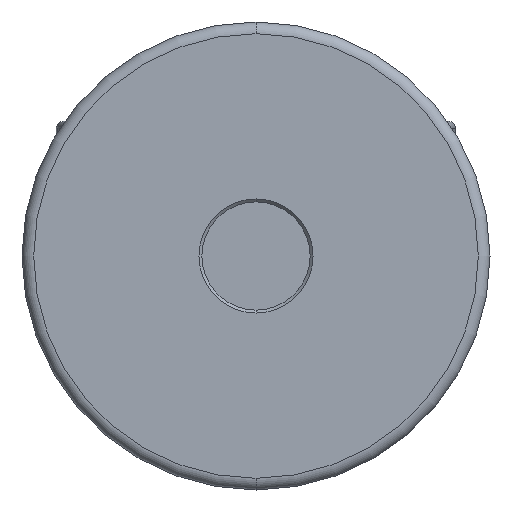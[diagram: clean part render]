
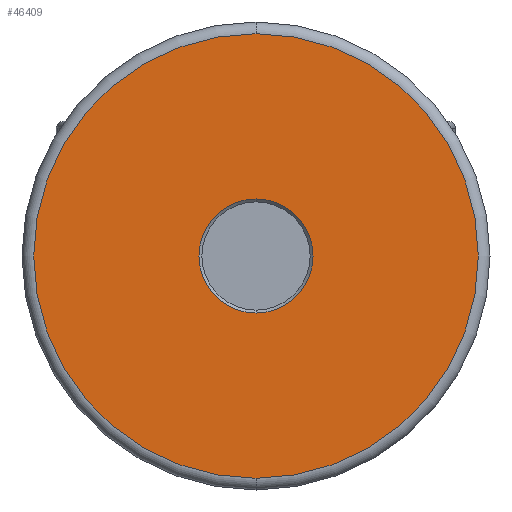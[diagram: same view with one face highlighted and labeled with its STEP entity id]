
A CAD part, front view. The second image highlights one B-rep face of the part: STEP entity #46409.
In plain terms, the highlighted planar face has unit normal (0, -1, 0).
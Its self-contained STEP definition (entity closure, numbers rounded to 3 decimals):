
#853 = VERTEX_POINT ( 'NONE', #43243 ) ;
#1069 = EDGE_CURVE ( 'NONE', #43587, #13728, #59654, .T. ) ;
#1621 = CARTESIAN_POINT ( 'NONE',  ( 9.489, -142.604, 44.506 ) ) ;
#1959 = FACE_BOUND ( 'NONE', #8586, .T. ) ;
#2471 = DIRECTION ( 'NONE',  ( 0., 1., 0. ) ) ;
#5845 = ORIENTED_EDGE ( 'NONE', *, *, #30000, .F. ) ;
#7661 = DIRECTION ( 'NONE',  ( 0., 0., 1. ) ) ;
#7984 = DIRECTION ( 'NONE',  ( 0., 1., 0. ) ) ;
#8586 = EDGE_LOOP ( 'NONE', ( #22033, #53637 ) ) ;
#13728 = VERTEX_POINT ( 'NONE', #32444 ) ;
#13993 = AXIS2_PLACEMENT_3D ( 'NONE', #48575, #29108, #53123 ) ;
#15316 = CIRCLE ( 'NONE', #35011, 9.75 ) ;
#16644 = DIRECTION ( 'NONE',  ( 0., 0., 1. ) ) ;
#17071 = DIRECTION ( 'NONE',  ( 0., -1., 0. ) ) ;
#17407 = DIRECTION ( 'NONE',  ( 0., 0., -1. ) ) ;
#19945 = CIRCLE ( 'NONE', #37546, 38. ) ;
#21306 = DIRECTION ( 'NONE',  ( 0., 1., 0. ) ) ;
#21961 = FACE_OUTER_BOUND ( 'NONE', #37084, .T. ) ;
#22033 = ORIENTED_EDGE ( 'NONE', *, *, #1069, .T. ) ;
#23561 = CIRCLE ( 'NONE', #34957, 38. ) ;
#24159 = EDGE_CURVE ( 'NONE', #13728, #43587, #15316, .T. ) ;
#24938 = AXIS2_PLACEMENT_3D ( 'NONE', #46935, #17071, #17407 ) ;
#29108 = DIRECTION ( 'NONE',  ( 0., 1., 0. ) ) ;
#30000 = EDGE_CURVE ( 'NONE', #853, #50767, #23561, .T. ) ;
#32039 = CARTESIAN_POINT ( 'NONE',  ( 9.489, -142.604, 34.756 ) ) ;
#32444 = CARTESIAN_POINT ( 'NONE',  ( 9.489, -142.604, 54.256 ) ) ;
#34957 = AXIS2_PLACEMENT_3D ( 'NONE', #36825, #7984, #7661 ) ;
#35011 = AXIS2_PLACEMENT_3D ( 'NONE', #61805, #2471, #16644 ) ;
#36825 = CARTESIAN_POINT ( 'NONE',  ( 9.489, -142.604, 44.506 ) ) ;
#37084 = EDGE_LOOP ( 'NONE', ( #5845, #59695 ) ) ;
#37546 = AXIS2_PLACEMENT_3D ( 'NONE', #1621, #21306, #41085 ) ;
#41085 = DIRECTION ( 'NONE',  ( 0., 0., 1. ) ) ;
#43243 = CARTESIAN_POINT ( 'NONE',  ( 9.489, -142.604, 82.506 ) ) ;
#43587 = VERTEX_POINT ( 'NONE', #32039 ) ;
#45942 = CARTESIAN_POINT ( 'NONE',  ( 9.489, -142.604, 6.506 ) ) ;
#46409 = ADVANCED_FACE ( 'NONE', ( #21961, #1959 ), #47247, .T. ) ;
#46935 = CARTESIAN_POINT ( 'NONE',  ( -0.261, -142.604, 44.506 ) ) ;
#47247 = PLANE ( 'NONE',  #24938 ) ;
#48575 = CARTESIAN_POINT ( 'NONE',  ( 9.489, -142.604, 44.506 ) ) ;
#50767 = VERTEX_POINT ( 'NONE', #45942 ) ;
#53123 = DIRECTION ( 'NONE',  ( 0., 0., 1. ) ) ;
#53491 = EDGE_CURVE ( 'NONE', #50767, #853, #19945, .T. ) ;
#53637 = ORIENTED_EDGE ( 'NONE', *, *, #24159, .T. ) ;
#59654 = CIRCLE ( 'NONE', #13993, 9.75 ) ;
#59695 = ORIENTED_EDGE ( 'NONE', *, *, #53491, .F. ) ;
#61805 = CARTESIAN_POINT ( 'NONE',  ( 9.489, -142.604, 44.506 ) ) ;
